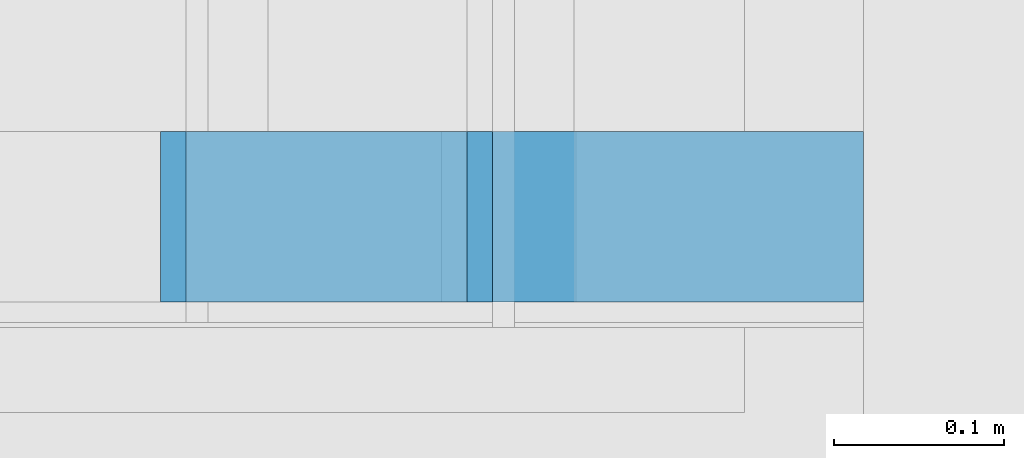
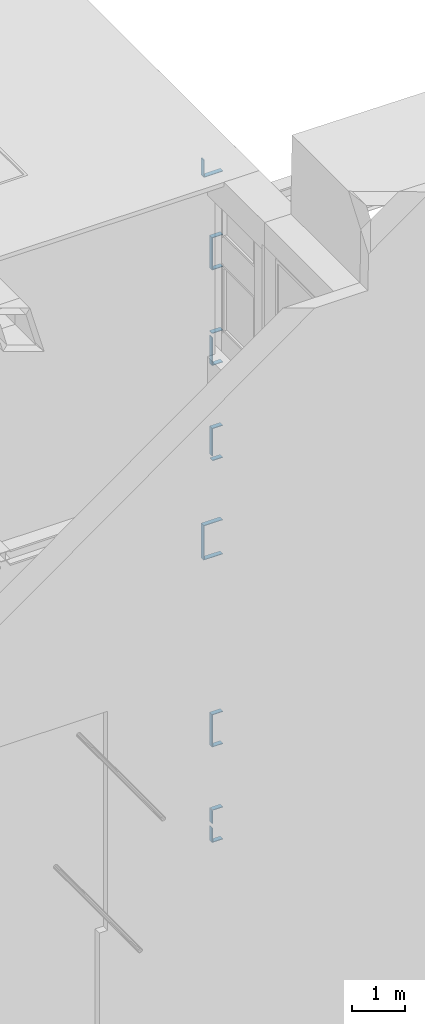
# One storey, part 193 of 583: 21 building element parts, 20 elements without a shape of their own.
"""IFC2X3 building model written with IfcOpenShell, lengths in metres."""

from ifc_helpers import new_model, entity, si_unit, converted_unit, derived_unit, money_unit, direction, frame, frame_2d, origin_with_axes, place, context, subcontext, project, spatial, polyline, rectangle, outline, extrude, material, type_object, element, aggregate, save


model = new_model("IFC2X3")

# Units and contexts
model_context = context("Model", 3, precision=1e-05, world=origin_with_axes(), true_north=direction((0.0, 1.0)))
body_context = subcontext(model_context, "Body", "Model", "MODEL_VIEW", scale=1.0)
ifc_project = project(units=[si_unit("LENGTHUNIT", "METRE"), si_unit("AREAUNIT", "SQUARE_METRE"), si_unit("VOLUMEUNIT", "CUBIC_METRE"), si_unit("ABSORBEDDOSEUNIT", "GRAY"), si_unit("AMOUNTOFSUBSTANCEUNIT", "MOLE"), si_unit("DOSEEQUIVALENTUNIT", "SIEVERT"), si_unit("ELECTRICCAPACITANCEUNIT", "FARAD"), si_unit("ELECTRICCHARGEUNIT", "COULOMB"), si_unit("ELECTRICCONDUCTANCEUNIT", "SIEMENS"), si_unit("ELECTRICCURRENTUNIT", "AMPERE"), si_unit("ELECTRICRESISTANCEUNIT", "OHM"), si_unit("ELECTRICVOLTAGEUNIT", "VOLT"), si_unit("ENERGYUNIT", "JOULE"), si_unit("FORCEUNIT", "NEWTON"), si_unit("FREQUENCYUNIT", "HERTZ"), si_unit("ILLUMINANCEUNIT", "LUX"), si_unit("INDUCTANCEUNIT", "HENRY"), si_unit("LUMINOUSFLUXUNIT", "LUMEN"), si_unit("LUMINOUSINTENSITYUNIT", "CANDELA"), si_unit("MAGNETICFLUXDENSITYUNIT", "TESLA"), si_unit("MAGNETICFLUXUNIT", "WEBER"), si_unit("MASSUNIT", "GRAM"), converted_unit("PLANEANGLEUNIT", "degree", entity("IfcReal", 0.0174532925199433), si_unit("PLANEANGLEUNIT", "RADIAN"), dimensions=[0, 0, 0, 0, 0, 0, 0]), si_unit("POWERUNIT", "WATT"), si_unit("PRESSUREUNIT", "PASCAL"), si_unit("RADIOACTIVITYUNIT", "BECQUEREL"), si_unit("SOLIDANGLEUNIT", "STERADIAN"), si_unit("THERMODYNAMICTEMPERATUREUNIT", "KELVIN"), si_unit("TIMEUNIT", "SECOND"), derived_unit("ACCELERATIONUNIT", [(si_unit("LENGTHUNIT", "METRE"), 1), (si_unit("TIMEUNIT", "SECOND"), -2)]), derived_unit("ANGULARVELOCITYUNIT", [(converted_unit("PLANEANGLEUNIT", "degree", entity("IfcReal", 0.0174532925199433), si_unit("PLANEANGLEUNIT", "RADIAN"), dimensions=[0, 0, 0, 0, 0, 0, 0]), 1), (si_unit("TIMEUNIT", "SECOND"), -1)]), derived_unit("CURVATUREUNIT", [(converted_unit("PLANEANGLEUNIT", "degree", entity("IfcReal", 0.0174532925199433), si_unit("PLANEANGLEUNIT", "RADIAN"), dimensions=[0, 0, 0, 0, 0, 0, 0]), 1), (si_unit("LENGTHUNIT", "METRE"), -1)]), derived_unit("DYNAMICVISCOSITYUNIT", [(si_unit("PRESSUREUNIT", "PASCAL"), 1), (si_unit("TIMEUNIT", "SECOND"), 1)]), derived_unit("HEATFLUXDENSITYUNIT", [(si_unit("POWERUNIT", "WATT"), 1), (si_unit("LENGTHUNIT", "METRE"), -2)]), derived_unit("HEATINGVALUEUNIT", [(si_unit("ENERGYUNIT", "JOULE"), 1), (si_unit("MASSUNIT", "GRAM"), -1)]), derived_unit("INTEGERCOUNTRATEUNIT", [(si_unit("TIMEUNIT", "SECOND"), -1)]), derived_unit("IONCONCENTRATIONUNIT", [(si_unit("MASSUNIT", "GRAM"), 1), (si_unit("VOLUMEUNIT", "CUBIC_METRE"), -1)]), derived_unit("ISOTHERMALMOISTURECAPACITYUNIT", [(si_unit("VOLUMEUNIT", "CUBIC_METRE"), 1), (si_unit("MASSUNIT", "GRAM"), -1)]), derived_unit("KINEMATICVISCOSITYUNIT", [(si_unit("AREAUNIT", "SQUARE_METRE"), 1), (si_unit("TIMEUNIT", "SECOND"), -1)]), derived_unit("LINEARFORCEUNIT", [(si_unit("FORCEUNIT", "NEWTON"), 1), (si_unit("LENGTHUNIT", "METRE"), -1)]), derived_unit("LINEARMOMENTUNIT", [(si_unit("FORCEUNIT", "NEWTON"), 1), (si_unit("LENGTHUNIT", "METRE"), -1)]), derived_unit("LINEARSTIFFNESSUNIT", [(si_unit("FORCEUNIT", "NEWTON"), 1), (si_unit("LENGTHUNIT", "METRE"), -1)]), derived_unit("LINEARVELOCITYUNIT", [(si_unit("LENGTHUNIT", "METRE"), 1), (si_unit("TIMEUNIT", "SECOND"), -1)]), derived_unit("LUMINOUSINTENSITYDISTRIBUTIONUNIT", [(si_unit("LUMINOUSINTENSITYUNIT", "CANDELA"), 1), (si_unit("LUMINOUSFLUXUNIT", "LUMEN"), -1)]), derived_unit("MASSDENSITYUNIT", [(si_unit("MASSUNIT", "GRAM"), 1), (si_unit("VOLUMEUNIT", "CUBIC_METRE"), -1)]), derived_unit("MASSFLOWRATEUNIT", [(si_unit("MASSUNIT", "GRAM"), 1), (si_unit("TIMEUNIT", "SECOND"), -1)]), derived_unit("MASSPERLENGTHUNIT", [(si_unit("MASSUNIT", "GRAM"), 1), (si_unit("LENGTHUNIT", "METRE"), -1)]), derived_unit("MODULUSOFELASTICITYUNIT", [(si_unit("FORCEUNIT", "NEWTON"), 1), (si_unit("AREAUNIT", "SQUARE_METRE"), -1)]), derived_unit("MODULUSOFLINEARSUBGRADEREACTIONUNIT", [(si_unit("FORCEUNIT", "NEWTON"), 1), (si_unit("LENGTHUNIT", "METRE"), -2)]), derived_unit("MODULUSOFROTATIONALSUBGRADEREACTIONUNIT", [(si_unit("FORCEUNIT", "NEWTON"), 1), (si_unit("LENGTHUNIT", "METRE"), 1)]), derived_unit("MODULUSOFSUBGRADEREACTIONUNIT", [(si_unit("FORCEUNIT", "NEWTON"), 1), (si_unit("VOLUMEUNIT", "CUBIC_METRE"), -1)]), derived_unit("MOISTUREDIFFUSIVITYUNIT", [(si_unit("VOLUMEUNIT", "CUBIC_METRE"), 1), (si_unit("TIMEUNIT", "SECOND"), -1)]), derived_unit("MOLECULARWEIGHTUNIT", [(si_unit("MASSUNIT", "GRAM"), 1), (si_unit("AMOUNTOFSUBSTANCEUNIT", "MOLE"), -1)]), derived_unit("PLANARFORCEUNIT", [(si_unit("FORCEUNIT", "NEWTON"), 1), (si_unit("LENGTHUNIT", "METRE"), -2)]), derived_unit("ROTATIONALFREQUENCYUNIT", [(si_unit("TIMEUNIT", "SECOND"), -1)]), derived_unit("ROTATIONALMASSUNIT", [(si_unit("MASSUNIT", "GRAM"), 1), (si_unit("LENGTHUNIT", "METRE"), 2)]), derived_unit("ROTATIONALSTIFFNESSUNIT", [(si_unit("FORCEUNIT", "NEWTON"), 1), (si_unit("LENGTHUNIT", "METRE"), 1), (converted_unit("PLANEANGLEUNIT", "degree", entity("IfcReal", 0.0174532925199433), si_unit("PLANEANGLEUNIT", "RADIAN"), dimensions=[0, 0, 0, 0, 0, 0, 0]), -1)]), derived_unit("SECTIONAREAINTEGRALUNIT", [(si_unit("LENGTHUNIT", "METRE"), 5)]), derived_unit("SECTIONMODULUSUNIT", [(si_unit("LENGTHUNIT", "METRE"), 3)]), derived_unit("SHEARMODULUSUNIT", [(si_unit("FORCEUNIT", "NEWTON"), 1), (si_unit("AREAUNIT", "SQUARE_METRE"), -1)]), derived_unit("SOUNDPOWERUNIT", [(si_unit("ENERGYUNIT", "JOULE"), 1), (si_unit("TIMEUNIT", "SECOND"), -1)]), derived_unit("SPECIFICHEATCAPACITYUNIT", [(si_unit("FORCEUNIT", "NEWTON"), 1), (si_unit("MASSUNIT", "GRAM"), -1), (si_unit("THERMODYNAMICTEMPERATUREUNIT", "KELVIN"), -1)]), derived_unit("TEMPERATUREGRADIENTUNIT", [(si_unit("THERMODYNAMICTEMPERATUREUNIT", "KELVIN"), 1), (si_unit("LENGTHUNIT", "METRE"), -1)]), derived_unit("THERMALADMITTANCEUNIT", [(si_unit("POWERUNIT", "WATT"), 1), (si_unit("AREAUNIT", "SQUARE_METRE"), -1), (si_unit("THERMODYNAMICTEMPERATUREUNIT", "KELVIN"), -1)]), derived_unit("THERMALCONDUCTANCEUNIT", [(si_unit("POWERUNIT", "WATT"), 1), (si_unit("LENGTHUNIT", "METRE"), -1), (si_unit("THERMODYNAMICTEMPERATUREUNIT", "KELVIN"), -1)]), derived_unit("THERMALEXPANSIONCOEFFICIENTUNIT", [(si_unit("THERMODYNAMICTEMPERATUREUNIT", "KELVIN"), -1)]), derived_unit("THERMALRESISTANCEUNIT", [(si_unit("AREAUNIT", "SQUARE_METRE"), 1), (si_unit("POWERUNIT", "WATT"), -1)]), derived_unit("THERMALTRANSMITTANCEUNIT", [(si_unit("POWERUNIT", "WATT"), 1), (si_unit("AREAUNIT", "SQUARE_METRE"), -1), (si_unit("THERMODYNAMICTEMPERATUREUNIT", "KELVIN"), -1)]), derived_unit("TORQUEUNIT", [(si_unit("FORCEUNIT", "NEWTON"), 1), (si_unit("LENGTHUNIT", "METRE"), 1)]), derived_unit("VAPORPERMEABILITYUNIT", [(si_unit("MASSUNIT", "GRAM"), 1), (si_unit("TIMEUNIT", "SECOND"), -1)]), derived_unit("VOLUMETRICFLOWRATEUNIT", [(si_unit("VOLUMEUNIT", "CUBIC_METRE"), 1), (si_unit("TIMEUNIT", "SECOND"), -1)]), derived_unit("WARPINGCONSTANTUNIT", [(si_unit("LENGTHUNIT", "METRE"), 6)]), derived_unit("WARPINGMOMENTUNIT", [(si_unit("FORCEUNIT", "NEWTON"), 1), (si_unit("LENGTHUNIT", "METRE"), 2)]), money_unit("GBP")], contexts=[model_context])

# Site, building, storey
site_placement = place(None, origin_with_axes())
site = spatial("IfcSite", under=ifc_project, at=site_placement, Name="Site", CompositionType="ELEMENT")
building_placement = place(site_placement, origin_with_axes())
building = spatial("IfcBuilding", under=site, at=building_placement, Name="Building01", CompositionType="ELEMENT")
storey_placement = place(building_placement, frame((0.0, 0.0, 20.78), z_axis=(0.0, 0.0, 1.0), x_axis=(1.0, 0.0, 0.0)))
storey = spatial("IfcBuildingStorey", under=building, at=storey_placement, Name="RL", CompositionType="ELEMENT", Elevation=20.78)

# Wall, building element part
wall_type = type_object("IfcWallType", Name="SHE_A-Walls_Type06d_ExternalWallInsulation_48mm", PredefinedType="NOTDEFINED")
wall_1_placement = place(storey_placement, frame((14.45, 5.15, 5.93), z_axis=(0.0, 1.0, 0.0), x_axis=(0.0, 0.0, -1.0)))
wall_1 = element("IfcWall", 1, at=wall_1_placement, inside=storey, type_object=wall_type, Name="6D", ObjectType="SHE_A-Walls_Type06d_ExternalWallInsulation_48mm")
ifc_material = material(Name="A_BSUK_Walls_Timber")
building_element_part_1_placement = place(wall_1_placement, origin_with_axes())
building_element_part_1 = element("IfcBuildingElementPart", 2, at=building_element_part_1_placement, material=ifc_material, Name="2", context=body_context, shape_type="SweptSolid", body=[
    extrude(outline(polyline([(0.425, 0.063), (0.048, 0.063), (0.033, 0.048), (0.425, 0.048), (0.425, 0.063)])), frame((0.0, 0.0, 0.015), z_axis=(0.0, 0.0, 1.0), x_axis=(1.0, 0.0, 0.0)), (0.0, 0.0, 1.0), 0.1),
])
aggregate(wall_1, [building_element_part_1])

wall_2_placement = place(storey_placement, frame((14.45, 5.15, 5.553), z_axis=(0.0, 1.0, 0.0), x_axis=(1.0, 0.0, 0.0)))
wall_2 = element("IfcWall", 3, at=wall_2_placement, inside=storey, type_object=wall_type, Name="6D", ObjectType="SHE_A-Walls_Type06d_ExternalWallInsulation_48mm")
building_element_part_2_placement = place(wall_2_placement, origin_with_axes())
building_element_part_2 = element("IfcBuildingElementPart", 4, at=building_element_part_2_placement, material=ifc_material, Name="2", context=body_context, shape_type="SweptSolid", body=[
    extrude(rectangle(XDim=0.413, YDim=0.015, at=frame_2d((0.1435, 0.0555), x_axis=(-1.0, 0.0))), frame((0.0, 0.0, 0.015), z_axis=(0.0, 0.0, 1.0), x_axis=(1.0, 0.0, 0.0)), (0.0, 0.0, 1.0), 0.1),
])
aggregate(wall_2, [building_element_part_2])

wall_3_placement = place(storey_placement, frame((14.8, 5.15, 3.987), z_axis=(0.0, 1.0, 0.0), x_axis=(-1.0, 0.0, 0.0)))
wall_3 = element("IfcWall", 5, at=wall_3_placement, inside=storey, type_object=wall_type, Name="6D", ObjectType="SHE_A-Walls_Type06d_ExternalWallInsulation_48mm")
building_element_part_3_placement = place(wall_3_placement, origin_with_axes())
building_element_part_3 = element("IfcBuildingElementPart", 6, at=building_element_part_3_placement, material=ifc_material, Name="2", context=body_context, shape_type="SweptSolid", body=[
    extrude(outline(polyline([(0.233, 0.063), (0.0, 0.063), (0.0, 0.048), (0.218, 0.048), (0.233, 0.063)])), frame((0.0, 0.0, 0.015), z_axis=(0.0, 0.0, 1.0), x_axis=(1.0, 0.0, 0.0)), (0.0, 0.0, 1.0), 0.1),
])
aggregate(wall_3, [building_element_part_3])

wall_4_placement = place(storey_placement, frame((14.63, 5.15, 3.987), z_axis=(0.0, 1.0, 0.0), x_axis=(0.0, 0.0, -1.0)))
wall_4 = element("IfcWall", 7, at=wall_4_placement, inside=storey, type_object=wall_type, Name="6D", ObjectType="SHE_A-Walls_Type06d_ExternalWallInsulation_48mm")
building_element_part_4_placement = place(wall_4_placement, origin_with_axes())
building_element_part_4 = element("IfcBuildingElementPart", 8, at=building_element_part_4_placement, material=ifc_material, Name="2", context=body_context, shape_type="SweptSolid", body=[
    extrude(outline(polyline([(0.687, 0.063), (-0.063, 0.063), (-0.048, 0.048), (0.672, 0.048), (0.687, 0.063)])), frame((0.0, 0.0, 0.015), z_axis=(0.0, 0.0, 1.0), x_axis=(1.0, 0.0, 0.0)), (0.0, 0.0, 1.0), 0.1),
])
aggregate(wall_4, [building_element_part_4])

wall_5_placement = place(storey_placement, frame((14.594, 5.15, 3.363), z_axis=(0.0, 1.0, 0.0), x_axis=(1.0, 0.0, 0.0)))
wall_5 = element("IfcWall", 9, at=wall_5_placement, inside=storey, type_object=wall_type, Name="6D", ObjectType="SHE_A-Walls_Type06d_ExternalWallInsulation_48mm")
building_element_part_5_placement = place(wall_5_placement, origin_with_axes())
building_element_part_5 = element("IfcBuildingElementPart", 10, at=building_element_part_5_placement, material=ifc_material, Name="2", context=body_context, shape_type="SweptSolid", body=[
    extrude(outline(polyline([(-0.027, 0.063), (-0.012, 0.048), (0.206, 0.048), (0.206, 0.063), (-0.027, 0.063)])), frame((0.0, 0.0, 0.015), z_axis=(0.0, 0.0, 1.0), x_axis=(1.0, 0.0, 0.0)), (0.0, 0.0, 1.0), 0.1),
])
aggregate(wall_5, [building_element_part_5])

wall_6_placement = place(storey_placement, frame((14.8, 5.15, 1.797), z_axis=(0.0, 1.0, 0.0), x_axis=(-1.0, 0.0, 0.0)))
wall_6 = element("IfcWall", 11, at=wall_6_placement, inside=storey, type_object=wall_type, Name="6D", ObjectType="SHE_A-Walls_Type06d_ExternalWallInsulation_48mm")
building_element_part_6_placement = place(wall_6_placement, origin_with_axes())
building_element_part_6 = element("IfcBuildingElementPart", 12, at=building_element_part_6_placement, material=ifc_material, Name="2", context=body_context, shape_type="SweptSolid", body=[
    extrude(rectangle(XDim=0.233, YDim=0.015, at=frame_2d((0.1165, 0.0555), x_axis=(-1.0, 0.0))), frame((0.0, 0.0, 0.015), z_axis=(0.0, 0.0, 1.0), x_axis=(1.0, 0.0, 0.0)), (0.0, 0.0, 1.0), 0.1),
])
aggregate(wall_6, [building_element_part_6])

wall_7_placement = place(storey_placement, frame((14.63, 5.15, 1.833), z_axis=(0.0, 1.0, 0.0), x_axis=(0.0, 0.0, -1.0)))
wall_7 = element("IfcWall", 13, at=wall_7_placement, inside=storey, type_object=wall_type, Name="6D", ObjectType="SHE_A-Walls_Type06d_ExternalWallInsulation_48mm")
building_element_part_7_placement = place(wall_7_placement, origin_with_axes())
building_element_part_7 = element("IfcBuildingElementPart", 14, at=building_element_part_7_placement, material=ifc_material, Name="2", context=body_context, shape_type="SweptSolid", body=[
    extrude(outline(polyline([(0.723, 0.063), (0.083, 0.063), (0.083, 0.048), (0.708, 0.048), (0.723, 0.063)])), frame((0.0, 0.0, 0.015), z_axis=(0.0, 0.0, 1.0), x_axis=(1.0, 0.0, 0.0)), (0.0, 0.0, 1.0), 0.1),
])
aggregate(wall_7, [building_element_part_7])

wall_8_placement = place(storey_placement, frame((14.63, 5.15, 1.173), z_axis=(0.0, 1.0, 0.0), x_axis=(1.0, 0.0, 0.0)))
wall_8 = element("IfcWall", 15, at=wall_8_placement, inside=storey, type_object=wall_type, Name="6D", ObjectType="SHE_A-Walls_Type06d_ExternalWallInsulation_48mm")
building_element_part_8_placement = place(wall_8_placement, origin_with_axes())
building_element_part_8 = element("IfcBuildingElementPart", 16, at=building_element_part_8_placement, material=ifc_material, Name="2", context=body_context, shape_type="SweptSolid", body=[
    extrude(outline(polyline([(-0.063, 0.063), (-0.048, 0.048), (0.17, 0.048), (0.17, 0.063), (-0.063, 0.063)])), frame((0.0, 0.0, 0.015), z_axis=(0.0, 0.0, 1.0), x_axis=(1.0, 0.0, 0.0)), (0.0, 0.0, 1.0), 0.1),
])
aggregate(wall_8, [building_element_part_8])

wall_9_placement = place(storey_placement, frame((14.8, 5.15, -0.393), z_axis=(0.0, 1.0, 0.0), x_axis=(-1.0, 0.0, 0.0)))
wall_9 = element("IfcWall", 17, at=wall_9_placement, inside=storey, type_object=wall_type, Name="6D", ObjectType="SHE_A-Walls_Type06d_ExternalWallInsulation_48mm")
building_element_part_9_placement = place(wall_9_placement, origin_with_axes())
building_element_part_9 = element("IfcBuildingElementPart", 18, at=building_element_part_9_placement, material=ifc_material, Name="2", context=body_context, shape_type="SweptSolid", body=[
    extrude(outline(polyline([(0.233, 0.063), (0.0, 0.063), (0.0, 0.048), (0.218, 0.048), (0.233, 0.063)])), frame((0.0, 0.0, 0.015), z_axis=(0.0, 0.0, 1.0), x_axis=(1.0, 0.0, 0.0)), (0.0, 0.0, 1.0), 0.1),
])
aggregate(wall_9, [building_element_part_9])

wall_10_placement = place(storey_placement, frame((14.63, 5.15, -0.357), z_axis=(0.0, 1.0, 0.0), x_axis=(0.0, 0.0, -1.0)))
wall_10 = element("IfcWall", 19, at=wall_10_placement, inside=storey, type_object=wall_type, Name="6D", ObjectType="SHE_A-Walls_Type06d_ExternalWallInsulation_48mm")
building_element_part_10_placement = place(wall_10_placement, origin_with_axes())
building_element_part_10 = element("IfcBuildingElementPart", 20, at=building_element_part_10_placement, material=ifc_material, Name="2", context=body_context, shape_type="SweptSolid", body=[
    extrude(outline(polyline([(0.613, 0.063), (-0.027, 0.063), (-0.012, 0.048), (0.613, 0.048), (0.613, 0.063)])), frame((0.0, 0.0, 0.015), z_axis=(0.0, 0.0, 1.0), x_axis=(1.0, 0.0, 0.0)), (0.0, 0.0, 1.0), 0.1),
])
aggregate(wall_10, [building_element_part_10])

wall_11_placement = place(storey_placement, frame((14.63, 5.15, -1.017), z_axis=(0.0, 1.0, 0.0), x_axis=(1.0, 0.0, 0.0)))
wall_11 = element("IfcWall", 21, at=wall_11_placement, inside=storey, type_object=wall_type, Name="6D", ObjectType="SHE_A-Walls_Type06d_ExternalWallInsulation_48mm")
building_element_part_11_placement = place(wall_11_placement, origin_with_axes())
building_element_part_11 = element("IfcBuildingElementPart", 22, at=building_element_part_11_placement, material=ifc_material, Name="2", context=body_context, shape_type="SweptSolid", body=[
    extrude(rectangle(XDim=0.218, YDim=0.015, at=frame_2d((0.061, 0.0555), x_axis=(1.0, 0.0))), frame((0.0, 0.0, 0.015), z_axis=(0.0, 0.0, 1.0), x_axis=(1.0, 0.0, 0.0)), (0.0, 0.0, 1.0), 0.1),
])
aggregate(wall_11, [building_element_part_11])

wall_12_placement = place(storey_placement, frame((14.8, 5.15, -2.56), z_axis=(0.0, 1.0, 0.0), x_axis=(-1.0, 0.0, 0.0)))
wall_12 = element("IfcWall", 23, at=wall_12_placement, inside=storey, type_object=wall_type, Name="6D", ObjectType="SHE_A-Walls_Type06d_ExternalWallInsulation_48mm")
building_element_part_12_placement = place(wall_12_placement, origin_with_axes())
building_element_part_12 = element("IfcBuildingElementPart", 24, at=building_element_part_12_placement, material=ifc_material, Name="2", context=body_context, shape_type="SweptSolid", body=[
    extrude(outline(polyline([(0.413, 0.063), (0.0, 0.063), (0.0, 0.048), (0.398, 0.048), (0.413, 0.063)])), frame((0.0, 0.0, 0.015), z_axis=(0.0, 0.0, 1.0), x_axis=(1.0, 0.0, 0.0)), (0.0, 0.0, 1.0), 0.1),
])
aggregate(wall_12, [building_element_part_12])

wall_13_placement = place(storey_placement, frame((14.45, 5.15, -2.56), z_axis=(0.0, 1.0, 0.0), x_axis=(0.0, 0.0, -1.0)))
wall_13 = element("IfcWall", 25, at=wall_13_placement, inside=storey, type_object=wall_type, Name="6D", ObjectType="SHE_A-Walls_Type06d_ExternalWallInsulation_48mm")
building_element_part_13_placement = place(wall_13_placement, origin_with_axes())
building_element_part_13 = element("IfcBuildingElementPart", 26, at=building_element_part_13_placement, material=ifc_material, Name="2", context=body_context, shape_type="SweptSolid", body=[
    extrude(outline(polyline([(0.733, 0.063), (-0.063, 0.063), (-0.048, 0.048), (0.718, 0.048), (0.733, 0.063)])), frame((0.0, 0.0, 0.015), z_axis=(0.0, 0.0, 1.0), x_axis=(1.0, 0.0, 0.0)), (0.0, 0.0, 1.0), 0.1),
])
aggregate(wall_13, [building_element_part_13])

wall_14_placement = place(storey_placement, frame((14.45, 5.15, -3.23), z_axis=(0.0, 1.0, 0.0), x_axis=(1.0, 0.0, 0.0)))
wall_14 = element("IfcWall", 27, at=wall_14_placement, inside=storey, type_object=wall_type, Name="6D", ObjectType="SHE_A-Walls_Type06d_ExternalWallInsulation_48mm")
building_element_part_14_placement = place(wall_14_placement, origin_with_axes())
building_element_part_14 = element("IfcBuildingElementPart", 28, at=building_element_part_14_placement, material=ifc_material, Name="2", context=body_context, shape_type="SweptSolid", body=[
    extrude(outline(polyline([(-0.063, 0.063), (-0.048, 0.048), (0.35, 0.048), (0.35, 0.063), (-0.063, 0.063)])), frame((0.0, 0.0, 0.015), z_axis=(0.0, 0.0, 1.0), x_axis=(1.0, 0.0, 0.0)), (0.0, 0.0, 1.0), 0.1),
])
aggregate(wall_14, [building_element_part_14])

wall_15_placement = place(storey_placement, frame((14.8, 5.15, -6.963), z_axis=(0.0, 1.0, 0.0), x_axis=(-1.0, 0.0, 0.0)))
wall_15 = element("IfcWall", 29, at=wall_15_placement, inside=storey, type_object=wall_type, Name="6D", ObjectType="SHE_A-Walls_Type06d_ExternalWallInsulation_48mm")
building_element_part_15_placement = place(wall_15_placement, origin_with_axes())
building_element_part_15 = element("IfcBuildingElementPart", 30, at=building_element_part_15_placement, material=ifc_material, Name="2", context=body_context, shape_type="SweptSolid", body=[
    extrude(outline(polyline([(0.233, 0.063), (0.0, 0.063), (0.0, 0.048), (0.218, 0.048), (0.233, 0.063)])), frame((0.0, 0.0, 0.015), z_axis=(0.0, 0.0, 1.0), x_axis=(1.0, 0.0, 0.0)), (0.0, 0.0, 1.0), 0.1),
])
aggregate(wall_15, [building_element_part_15])

wall_16_placement = place(storey_placement, frame((14.63, 5.15, -6.927), z_axis=(0.0, 1.0, 0.0), x_axis=(0.0, 0.0, -1.0)))
wall_16 = element("IfcWall", 31, at=wall_16_placement, inside=storey, type_object=wall_type, Name="6D", ObjectType="SHE_A-Walls_Type06d_ExternalWallInsulation_48mm")
building_element_part_16_placement = place(wall_16_placement, origin_with_axes())
building_element_part_16 = element("IfcBuildingElementPart", 32, at=building_element_part_16_placement, material=ifc_material, Name="2", context=body_context, shape_type="SweptSolid", body=[
    extrude(outline(polyline([(0.723, 0.063), (-0.027, 0.063), (-0.012, 0.048), (0.708, 0.048), (0.723, 0.063)])), frame((0.0, 0.0, 0.015), z_axis=(0.0, 0.0, 1.0), x_axis=(1.0, 0.0, 0.0)), (0.0, 0.0, 1.0), 0.1),
])
aggregate(wall_16, [building_element_part_16])

wall_17_placement = place(storey_placement, frame((14.63, 5.15, -7.587), z_axis=(0.0, 1.0, 0.0), x_axis=(1.0, 0.0, 0.0)))
wall_17 = element("IfcWall", 33, at=wall_17_placement, inside=storey, type_object=wall_type, Name="6D", ObjectType="SHE_A-Walls_Type06d_ExternalWallInsulation_48mm")
building_element_part_17_placement = place(wall_17_placement, origin_with_axes())
building_element_part_17 = element("IfcBuildingElementPart", 34, at=building_element_part_17_placement, material=ifc_material, Name="2", context=body_context, shape_type="SweptSolid", body=[
    extrude(outline(polyline([(0.17, 0.063), (-0.063, 0.063), (-0.048, 0.048), (0.17, 0.048), (0.17, 0.063)])), frame((0.0, 0.0, 0.015), z_axis=(0.0, 0.0, 1.0), x_axis=(1.0, 0.0, 0.0)), (0.0, 0.0, 1.0), 0.1),
])
aggregate(wall_17, [building_element_part_17])

wall_18_placement = place(storey_placement, frame((14.8, 5.15, -9.153), z_axis=(0.0, 1.0, 0.0), x_axis=(-1.0, 0.0, 0.0)))
wall_18 = element("IfcWall", 35, at=wall_18_placement, inside=storey, type_object=wall_type, Name="6D", ObjectType="SHE_A-Walls_Type06d_ExternalWallInsulation_48mm")
building_element_part_18_placement = place(wall_18_placement, origin_with_axes())
building_element_part_18 = element("IfcBuildingElementPart", 36, at=building_element_part_18_placement, material=ifc_material, Name="2", context=body_context, shape_type="SweptSolid", body=[
    extrude(outline(polyline([(0.218, 0.063), (0.0, 0.063), (0.0, 0.048), (0.203, 0.048), (0.218, 0.063)])), frame((0.0, 0.0, 0.015), z_axis=(0.0, 0.0, 1.0), x_axis=(1.0, 0.0, 0.0)), (0.0, 0.0, 1.0), 0.1),
])
aggregate(wall_18, [building_element_part_18])

# Wall, building element parts
wall_19_placement = place(storey_placement, frame((14.63, 5.15, -9.117), z_axis=(0.0, 1.0, 0.0), x_axis=(0.0, 0.0, -1.0)))
wall_19 = element("IfcWall", 37, at=wall_19_placement, inside=storey, type_object=wall_type, Name="6D", ObjectType="SHE_A-Walls_Type06d_ExternalWallInsulation_48mm")
placement = place(wall_19_placement, origin_with_axes())
building_element_part_19 = element("IfcBuildingElementPart", 38, at=placement, material=ifc_material, Name="2", context=body_context, shape_type="SweptSolid", body=[
    extrude(outline(polyline([(0.288, 0.063), (-0.027, 0.063), (-0.012, 0.048), (0.288, 0.048), (0.288, 0.063)])), frame((0.0, 0.0, 0.015), z_axis=(0.0, 0.0, 1.0), x_axis=(1.0, 0.0, 0.0)), (0.0, 0.0, 1.0), 0.1),
])
building_element_part_20 = element("IfcBuildingElementPart", 39, at=placement, material=ifc_material, Name="3", context=body_context, shape_type="SweptSolid", body=[
    extrude(outline(polyline([(0.723, 0.063), (0.383, 0.063), (0.383, 0.048), (0.708, 0.048), (0.723, 0.063)])), frame((0.0, 0.0, 0.015), z_axis=(0.0, 0.0, 1.0), x_axis=(1.0, 0.0, 0.0)), (0.0, 0.0, 1.0), 0.1),
])
aggregate(wall_19, [building_element_part_19, building_element_part_20])

# Wall, building element part
wall_20_placement = place(storey_placement, frame((14.8, 5.15, -9.777), z_axis=(0.0, 1.0, 0.0), x_axis=(-1.0, 0.0, 0.0)))
wall_20 = element("IfcWall", 40, at=wall_20_placement, inside=storey, type_object=wall_type, Name="6D", ObjectType="SHE_A-Walls_Type06d_ExternalWallInsulation_48mm")
building_element_part_21_placement = place(wall_20_placement, origin_with_axes())
building_element_part_21 = element("IfcBuildingElementPart", 41, at=building_element_part_21_placement, material=ifc_material, Name="2", context=body_context, shape_type="SweptSolid", body=[
    extrude(outline(polyline([(0.218, -0.048), (0.0, -0.048), (0.0, -0.063), (0.233, -0.063), (0.218, -0.048)])), frame((0.0, 0.0, 0.015), z_axis=(0.0, 0.0, 1.0), x_axis=(1.0, 0.0, 0.0)), (0.0, 0.0, 1.0), 0.1),
])
aggregate(wall_20, [building_element_part_21])

save(model, "model.ifc")
